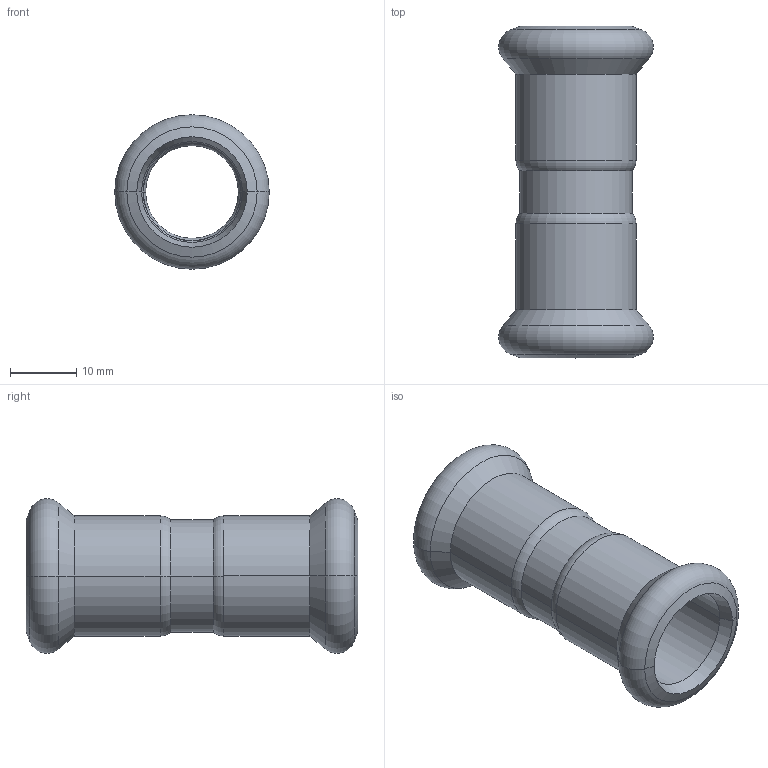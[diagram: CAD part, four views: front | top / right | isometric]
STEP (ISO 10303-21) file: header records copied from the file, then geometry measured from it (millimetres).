
FILE_DESCRIPTION(('Creo Elements/Direct Modeling STEP Export'),'2;1');
FILE_NAME('675136.0.stp','2018-06-29T14:31:37',(''),(''),'PTC Creo Elements/Direct Modeling STEP processor for AP214 (Solid Model)','PTC Creo Elements/Direct Modeling 19.0C 15-Aug-2015 (C) Parametric Technology GmbH','');
FILE_SCHEMA(('AUTOMOTIVE_DESIGN { 1 0 10303 214 1 1 1 1 }'));
Length unit declared in the file: millimetre
Products named in the file (3): 686001.2; Tussenstuk15x15kort; 675136.0.1
Assembly tree (3 placements, depth 2):
  675136.0.1
    Tussenstuk15x15kort
    686001.2  x2
Bounding box: 23.35 x 50.16 x 23.35 mm (x, y, z)
Volume: 5274.9 mm3; surface area: 6046.2 mm2
Topology: 3 solids, 3 shells, 48 faces, 96 edges, 52 vertices
Faces by surface type: torus 16, cone 16, cylinder 12, plane 4
Entity records: 904 total; most frequent: DIRECTION 162, ORIENTED_EDGE 140, CARTESIAN_POINT 128, AXIS2_PLACEMENT_3D 72, EDGE_CURVE 70, VERTEX_POINT 38, EDGE_LOOP 38, FACE_OUTER_BOUND 35
